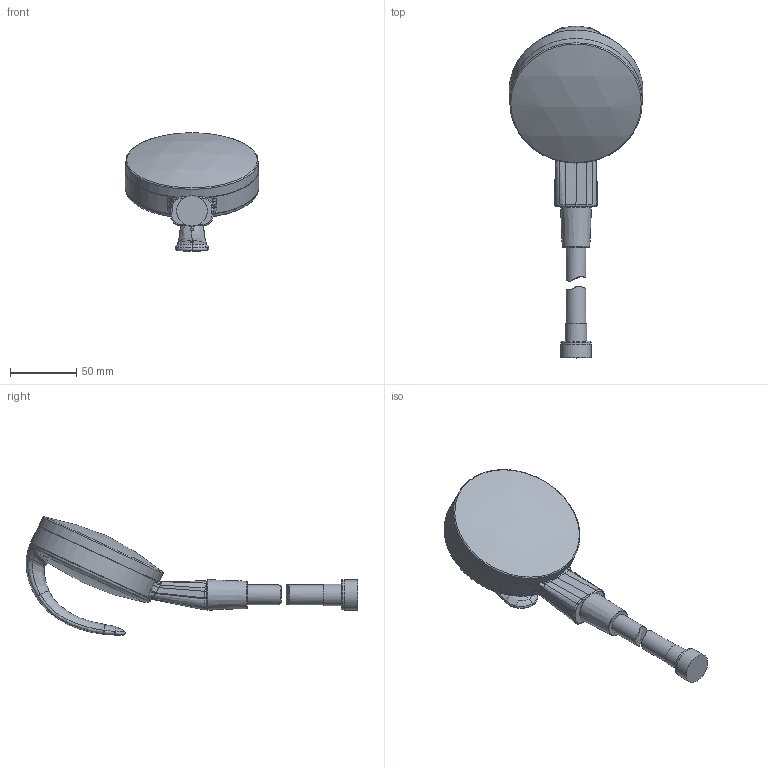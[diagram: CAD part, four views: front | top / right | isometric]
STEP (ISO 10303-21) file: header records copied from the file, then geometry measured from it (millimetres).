
FILE_DESCRIPTION (( 'STEP AP203' ), '1' );
FILE_NAME ('242055+44280170.STEP', '2017-03-09T05:46:35', ( '' ), ( '' ), 'SwSTEP 2.0', 'SolidWorks 2016', '' );
FILE_SCHEMA (( 'CONFIG_CONTROL_DESIGN' ));
Length unit declared in the file: millimetre
Products named in the file (1): 242055+44280170
Bounding box: 100.73 x 249.98 x 89.25 mm (x, y, z)
Volume: 322039.1 mm3; surface area: 55853.2 mm2
Topology: 4 solids, 4 shells, 135 faces, 314 edges, 194 vertices
Faces by surface type: bspline 107, plane 12, cylinder 8, torus 4, cone 3, sphere 1
Full cylindrical faces by diameter (mm): 15 x2, 16.1 x1, 19 x1, 22.6 x1, 22.95 x1, 100 x1, 100.731 x1
Entity records: 12887 total; most frequent: CARTESIAN_POINT 10695, ORIENTED_EDGE 590, EDGE_CURVE 295, B_SPLINE_CURVE_WITH_KNOTS 191, VERTEX_POINT 189, DIRECTION 160, EDGE_LOOP 156, FACE_OUTER_BOUND 147
